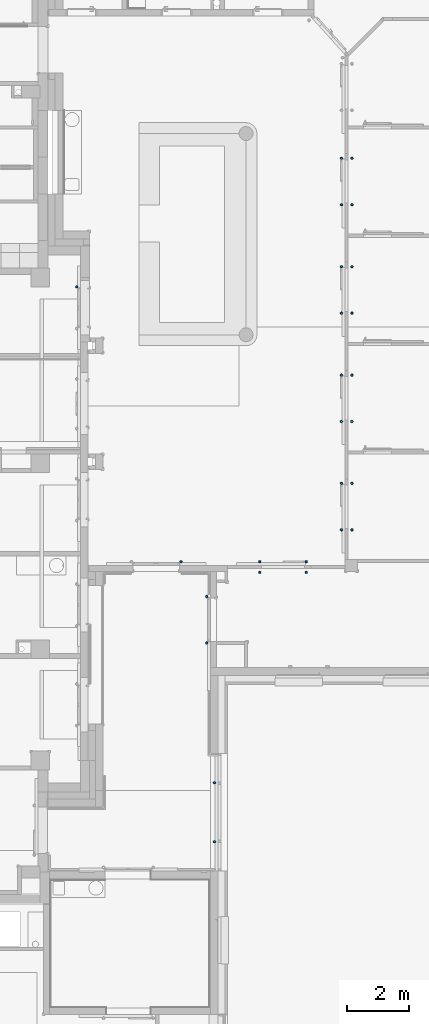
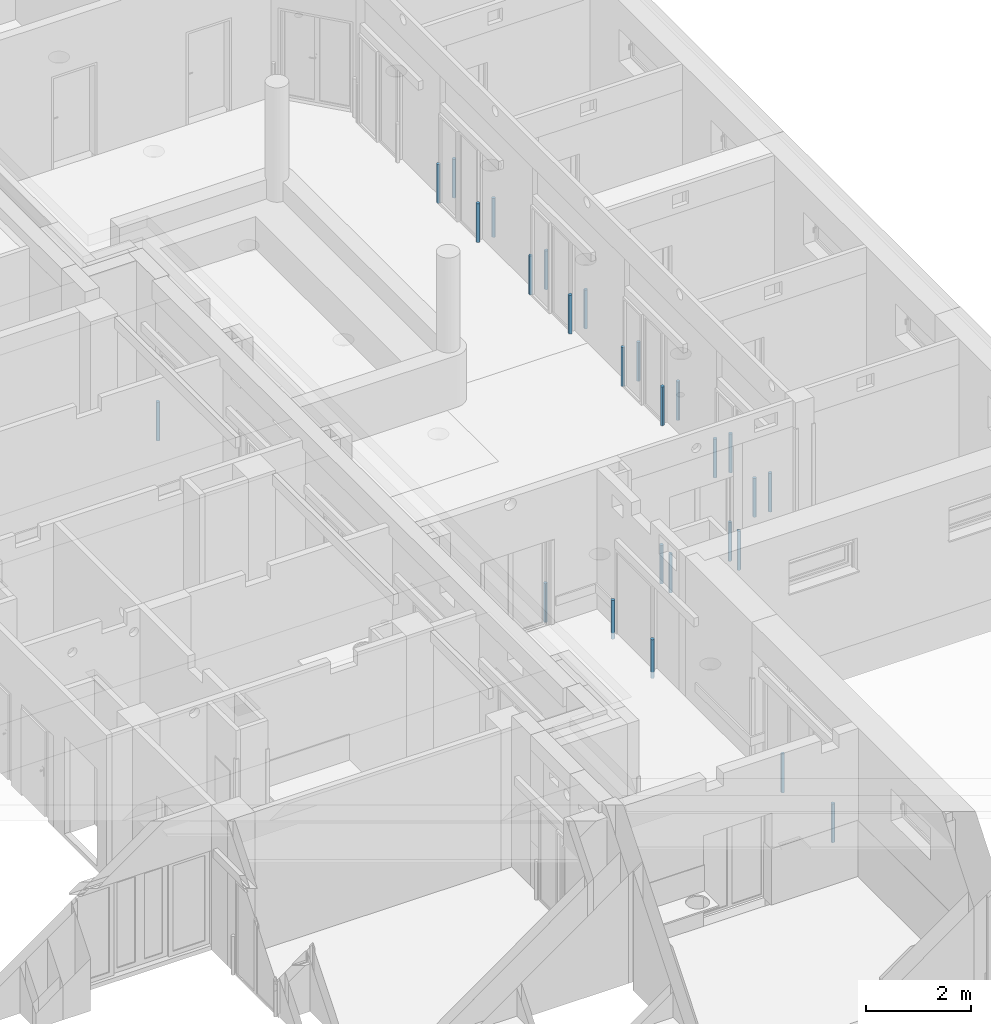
# One storey, part 5 of 140: 26 columns.
"""IFC4 building model written with IfcOpenShell, lengths in metres."""

from ifc_helpers import new_model, entity, si_unit, converted_unit, derived_unit, frame, frame_2d, origin, origin_with_axes, place, context, subcontext, project, spatial, circle, extrude, material, element, save


model = new_model("IFC4")

# Units and contexts
model_context = context("Model", 3, precision=1e-05, world=origin())
body_context = subcontext(model_context, "Body", "Model", "MODEL_VIEW")
ifc_project = project(units=[si_unit("LENGTHUNIT", "METRE"), si_unit("AREAUNIT", "SQUARE_METRE"), si_unit("VOLUMEUNIT", "CUBIC_METRE"), si_unit("MASSUNIT", "GRAM", prefix="KILO"), converted_unit("PLANEANGLEUNIT", "DEGREE", entity("IfcPlaneAngleMeasure", 0.0174532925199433), si_unit("PLANEANGLEUNIT", "RADIAN"), dimensions=[0, 0, 0, 0, 0, 0, 0]), derived_unit("THERMALTRANSMITTANCEUNIT", [(si_unit("POWERUNIT", "WATT"), 1), (si_unit("THERMODYNAMICTEMPERATUREUNIT", "KELVIN"), -1), (si_unit("LENGTHUNIT", "METRE"), -2)]), derived_unit("VOLUMETRICFLOWRATEUNIT", [(si_unit("LENGTHUNIT", "METRE"), 3), (converted_unit("TIMEUNIT", "hour", entity("IfcTimeMeasure", 3600.0), si_unit("TIMEUNIT", "SECOND"), dimensions=[0, 0, 1, 0, 0, 0, 0]), -1), (si_unit("LENGTHUNIT", "METRE"), -1)])], contexts=[model_context])

# Site, building, storey
site_placement = place(None, origin())
site = spatial("IfcSite", under=ifc_project, at=site_placement, Name="3. ASŘ", CompositionType="ELEMENT")
building_placement = place(site_placement, origin())
building = spatial("IfcBuilding", under=site, at=building_placement, Name="Pavilon C", CompositionType="ELEMENT")
storey_placement = place(building_placement, origin())
storey = spatial("IfcBuildingStorey", under=building, at=storey_placement, Name="Půdorys 1.NP", CompositionType="ELEMENT", Elevation=0.0)

# Columns
ifc_material_1 = material(Name="I.OS4")
column_1_placement = place(storey_placement, frame((51.092, 18.862, 0.0)))
element("IfcColumn", 1, at=column_1_placement, inside=storey, material=ifc_material_1, Name="OCHRANNÝ SLOUPEK", PredefinedType="COLUMN", context=body_context, shape_type="SweptSolid", body=[
    extrude(circle(Radius=0.0380000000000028, at=frame_2d((0.0380000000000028, 0.0380000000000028), x_axis=(1.0, 0.0))), origin_with_axes(), (0.0, 0.0, 1.0), 0.9),
])
ifc_material_2 = material(Name="I.OS4")
column_2_placement = place(storey_placement, frame((55.292, 7.36199999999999, 0.0)))
element("IfcColumn", 2, at=column_2_placement, inside=storey, material=ifc_material_2, Name="OCHRANNÝ SLOUPEK", PredefinedType="COLUMN", context=body_context, shape_type="SweptSolid", body=[
    extrude(circle(Radius=0.0380000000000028, at=frame_2d((0.0380000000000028, 0.0380000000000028), x_axis=(1.0, 0.0))), origin_with_axes(), (0.0, 0.0, 1.0), 0.9),
])
ifc_material_3 = material(Name="I.OS4")
column_3_placement = place(storey_placement, frame((54.462, 9.98199999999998, 0.0)))
element("IfcColumn", 3, at=column_3_placement, inside=storey, material=ifc_material_3, Name="OCHRANNÝ SLOUPEK", PredefinedType="COLUMN", context=body_context, shape_type="SweptSolid", body=[
    extrude(circle(Radius=0.0380000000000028, at=frame_2d((0.0380000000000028, 0.0380000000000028), x_axis=(1.0, 0.0))), origin_with_axes(), (0.0, 0.0, 1.0), 0.9),
])
ifc_material_4 = material(Name="I.OS4")
column_4_placement = place(storey_placement, frame((58.504, 9.98199999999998, 0.0)))
element("IfcColumn", 4, at=column_4_placement, inside=storey, material=ifc_material_4, Name="OCHRANNÝ SLOUPEK", PredefinedType="COLUMN", context=body_context, shape_type="SweptSolid", body=[
    extrude(circle(Radius=0.0380000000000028, at=frame_2d((0.0380000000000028, 0.0380000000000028), x_axis=(1.0, 0.0))), origin_with_axes(), (0.0, 0.0, 1.0), 0.9),
])
ifc_material_5 = material(Name="I.OS4")
column_5_placement = place(storey_placement, frame((57.004, 9.98199999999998, 0.0)))
element("IfcColumn", 5, at=column_5_placement, inside=storey, material=ifc_material_5, Name="OCHRANNÝ SLOUPEK", PredefinedType="COLUMN", context=body_context, shape_type="SweptSolid", body=[
    extrude(circle(Radius=0.0380000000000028, at=frame_2d((0.0380000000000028, 0.0380000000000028), x_axis=(1.0, 0.0))), origin_with_axes(), (0.0, 0.0, 1.0), 0.9),
])
ifc_material_6 = material(Name="I.OS4")
column_6_placement = place(storey_placement, frame((57.004, 9.64199999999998, 0.0)))
element("IfcColumn", 6, at=column_6_placement, inside=storey, material=ifc_material_6, Name="OCHRANNÝ SLOUPEK", PredefinedType="COLUMN", context=body_context, shape_type="SweptSolid", body=[
    extrude(circle(Radius=0.0380000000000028, at=frame_2d((0.0380000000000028, 0.0380000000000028), x_axis=(1.0, 0.0))), origin_with_axes(), (0.0, 0.0, 1.0), 0.9),
])
ifc_material_7 = material(Name="I.OS4")
column_7_placement = place(storey_placement, frame((58.504, 9.64199999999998, 0.0)))
element("IfcColumn", 7, at=column_7_placement, inside=storey, material=ifc_material_7, Name="OCHRANNÝ SLOUPEK", PredefinedType="COLUMN", context=body_context, shape_type="SweptSolid", body=[
    extrude(circle(Radius=0.0380000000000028, at=frame_2d((0.0380000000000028, 0.0380000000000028), x_axis=(1.0, 0.0))), origin_with_axes(), (0.0, 0.0, 1.0), 0.9),
])
ifc_material_8 = material(Name="I.OS4")
column_8_placement = place(storey_placement, frame((59.642, 16.012, 0.0)))
element("IfcColumn", 8, at=column_8_placement, inside=storey, material=ifc_material_8, Name="OCHRANNÝ SLOUPEK", PredefinedType="COLUMN", context=body_context, shape_type="SweptSolid", body=[
    extrude(circle(Radius=0.0380000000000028, at=frame_2d((0.0380000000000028, 0.0380000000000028), x_axis=(1.0, 0.0))), origin_with_axes(), (0.0, 0.0, 1.0), 0.9),
])
ifc_material_9 = material(Name="I.OS4")
column_9_placement = place(storey_placement, frame((59.642, 14.512, 0.0)))
element("IfcColumn", 9, at=column_9_placement, inside=storey, material=ifc_material_9, Name="OCHRANNÝ SLOUPEK", PredefinedType="COLUMN", context=body_context, shape_type="SweptSolid", body=[
    extrude(circle(Radius=0.0380000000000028, at=frame_2d((0.0380000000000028, 0.0380000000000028), x_axis=(1.0, 0.0))), origin_with_axes(), (0.0, 0.0, 1.0), 0.9),
])
ifc_material_10 = material(Name="I.OS4")
column_10_placement = place(storey_placement, frame((59.982, 14.512, 0.0)))
element("IfcColumn", 10, at=column_10_placement, inside=storey, material=ifc_material_10, Name="OCHRANNÝ SLOUPEK", PredefinedType="COLUMN", context=body_context, shape_type="SweptSolid", body=[
    extrude(circle(Radius=0.0380000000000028, at=frame_2d((0.0380000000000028, 0.0380000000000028), x_axis=(1.0, 0.0))), origin_with_axes(), (0.0, 0.0, 1.0), 0.9),
])
ifc_material_11 = material(Name="I.OS4")
column_11_placement = place(storey_placement, frame((59.982, 16.012, 0.0)))
element("IfcColumn", 11, at=column_11_placement, inside=storey, material=ifc_material_11, Name="OCHRANNÝ SLOUPEK", PredefinedType="COLUMN", context=body_context, shape_type="SweptSolid", body=[
    extrude(circle(Radius=0.0380000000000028, at=frame_2d((0.0380000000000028, 0.0380000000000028), x_axis=(1.0, 0.0))), origin_with_axes(), (0.0, 0.0, 1.0), 0.9),
])
ifc_material_12 = material(Name="I.OS4")
column_12_placement = place(storey_placement, frame((59.642, 19.512, 0.0)))
element("IfcColumn", 12, at=column_12_placement, inside=storey, material=ifc_material_12, Name="OCHRANNÝ SLOUPEK", PredefinedType="COLUMN", context=body_context, shape_type="SweptSolid", body=[
    extrude(circle(Radius=0.0380000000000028, at=frame_2d((0.0380000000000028, 0.0380000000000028), x_axis=(1.0, 0.0))), origin_with_axes(), (0.0, 0.0, 1.0), 0.9),
])
ifc_material_13 = material(Name="I.OS4")
column_13_placement = place(storey_placement, frame((59.642, 18.012, 0.0)))
element("IfcColumn", 13, at=column_13_placement, inside=storey, material=ifc_material_13, Name="OCHRANNÝ SLOUPEK", PredefinedType="COLUMN", context=body_context, shape_type="SweptSolid", body=[
    extrude(circle(Radius=0.0380000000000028, at=frame_2d((0.0380000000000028, 0.0380000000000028), x_axis=(1.0, 0.0))), origin_with_axes(), (0.0, 0.0, 1.0), 0.9),
])
ifc_material_14 = material(Name="I.OS4")
column_14_placement = place(storey_placement, frame((59.982, 18.012, 0.0)))
element("IfcColumn", 14, at=column_14_placement, inside=storey, material=ifc_material_14, Name="OCHRANNÝ SLOUPEK", PredefinedType="COLUMN", context=body_context, shape_type="SweptSolid", body=[
    extrude(circle(Radius=0.0380000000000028, at=frame_2d((0.0380000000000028, 0.0380000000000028), x_axis=(1.0, 0.0))), origin_with_axes(), (0.0, 0.0, 1.0), 0.9),
])
ifc_material_15 = material(Name="I.OS4")
column_15_placement = place(storey_placement, frame((59.982, 19.512, 0.0)))
element("IfcColumn", 15, at=column_15_placement, inside=storey, material=ifc_material_15, Name="OCHRANNÝ SLOUPEK", PredefinedType="COLUMN", context=body_context, shape_type="SweptSolid", body=[
    extrude(circle(Radius=0.0380000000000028, at=frame_2d((0.0380000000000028, 0.0380000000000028), x_axis=(1.0, 0.0))), origin_with_axes(), (0.0, 0.0, 1.0), 0.9),
])
ifc_material_16 = material(Name="I.OS4")
column_16_placement = place(storey_placement, frame((59.642, 23.012, 0.0)))
element("IfcColumn", 16, at=column_16_placement, inside=storey, material=ifc_material_16, Name="OCHRANNÝ SLOUPEK", PredefinedType="COLUMN", context=body_context, shape_type="SweptSolid", body=[
    extrude(circle(Radius=0.0380000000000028, at=frame_2d((0.0380000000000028, 0.0380000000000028), x_axis=(1.0, 0.0))), origin_with_axes(), (0.0, 0.0, 1.0), 0.9),
])
ifc_material_17 = material(Name="I.OS4")
column_17_placement = place(storey_placement, frame((59.642, 21.512, 0.0)))
element("IfcColumn", 17, at=column_17_placement, inside=storey, material=ifc_material_17, Name="OCHRANNÝ SLOUPEK", PredefinedType="COLUMN", context=body_context, shape_type="SweptSolid", body=[
    extrude(circle(Radius=0.0380000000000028, at=frame_2d((0.0380000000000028, 0.0380000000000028), x_axis=(1.0, 0.0))), origin_with_axes(), (0.0, 0.0, 1.0), 0.9),
])
ifc_material_18 = material(Name="I.OS4")
column_18_placement = place(storey_placement, frame((59.982, 21.512, 0.0)))
element("IfcColumn", 18, at=column_18_placement, inside=storey, material=ifc_material_18, Name="OCHRANNÝ SLOUPEK", PredefinedType="COLUMN", context=body_context, shape_type="SweptSolid", body=[
    extrude(circle(Radius=0.0380000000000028, at=frame_2d((0.0380000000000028, 0.0380000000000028), x_axis=(1.0, 0.0))), origin_with_axes(), (0.0, 0.0, 1.0), 0.9),
])
ifc_material_19 = material(Name="I.OS4")
column_19_placement = place(storey_placement, frame((59.982, 23.012, 0.0)))
element("IfcColumn", 19, at=column_19_placement, inside=storey, material=ifc_material_19, Name="OCHRANNÝ SLOUPEK", PredefinedType="COLUMN", context=body_context, shape_type="SweptSolid", body=[
    extrude(circle(Radius=0.0380000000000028, at=frame_2d((0.0380000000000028, 0.0380000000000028), x_axis=(1.0, 0.0))), origin_with_axes(), (0.0, 0.0, 1.0), 0.9),
])
ifc_material_20 = material(Name="I.OS4")
column_20_placement = place(storey_placement, frame((59.642, 12.512, 0.0)))
element("IfcColumn", 20, at=column_20_placement, inside=storey, material=ifc_material_20, Name="OCHRANNÝ SLOUPEK", PredefinedType="COLUMN", context=body_context, shape_type="SweptSolid", body=[
    extrude(circle(Radius=0.0380000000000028, at=frame_2d((0.0380000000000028, 0.0380000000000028), x_axis=(1.0, 0.0))), origin_with_axes(), (0.0, 0.0, 1.0), 0.9),
])
ifc_material_21 = material(Name="I.OS4")
column_21_placement = place(storey_placement, frame((59.642, 11.012, 0.0)))
element("IfcColumn", 21, at=column_21_placement, inside=storey, material=ifc_material_21, Name="OCHRANNÝ SLOUPEK", PredefinedType="COLUMN", context=body_context, shape_type="SweptSolid", body=[
    extrude(circle(Radius=0.0380000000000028, at=frame_2d((0.0380000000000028, 0.0380000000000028), x_axis=(1.0, 0.0))), origin_with_axes(), (0.0, 0.0, 1.0), 0.9),
])
ifc_material_22 = material(Name="I.OS4")
column_22_placement = place(storey_placement, frame((59.982, 11.012, 0.0)))
element("IfcColumn", 22, at=column_22_placement, inside=storey, material=ifc_material_22, Name="OCHRANNÝ SLOUPEK", PredefinedType="COLUMN", context=body_context, shape_type="SweptSolid", body=[
    extrude(circle(Radius=0.0380000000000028, at=frame_2d((0.0380000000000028, 0.0380000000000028), x_axis=(1.0, 0.0))), origin_with_axes(), (0.0, 0.0, 1.0), 0.9),
])
ifc_material_23 = material(Name="I.OS4")
column_23_placement = place(storey_placement, frame((59.982, 12.512, 0.0)))
element("IfcColumn", 23, at=column_23_placement, inside=storey, material=ifc_material_23, Name="OCHRANNÝ SLOUPEK", PredefinedType="COLUMN", context=body_context, shape_type="SweptSolid", body=[
    extrude(circle(Radius=0.0380000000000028, at=frame_2d((0.0380000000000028, 0.0380000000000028), x_axis=(1.0, 0.0))), origin_with_axes(), (0.0, 0.0, 1.0), 0.9),
])
ifc_material_24 = material(Name="I.OS4")
column_24_placement = place(storey_placement, frame((55.292, 8.86199999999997, 0.0)))
element("IfcColumn", 24, at=column_24_placement, inside=storey, material=ifc_material_24, Name="OCHRANNÝ SLOUPEK", PredefinedType="COLUMN", context=body_context, shape_type="SweptSolid", body=[
    extrude(circle(Radius=0.0380000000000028, at=frame_2d((0.0380000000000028, 0.0380000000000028), x_axis=(1.0, 0.0))), origin_with_axes(), (0.0, 0.0, 1.0), 0.9),
])
ifc_material_25 = material(Name="I.OS4")
column_25_placement = place(storey_placement, frame((55.542, 0.940999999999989, 0.0)))
element("IfcColumn", 25, at=column_25_placement, inside=storey, material=ifc_material_25, Name="OCHRANNÝ SLOUPEK", PredefinedType="COLUMN", context=body_context, shape_type="SweptSolid", body=[
    extrude(circle(Radius=0.0380000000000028, at=frame_2d((0.0380000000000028, 0.0380000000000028), x_axis=(1.0, 0.0))), origin_with_axes(), (0.0, 0.0, 1.0), 0.9),
])
ifc_material_26 = material(Name="I.OS4")
column_26_placement = place(storey_placement, frame((55.542, 2.84299999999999, 0.0)))
element("IfcColumn", 26, at=column_26_placement, inside=storey, material=ifc_material_26, Name="OCHRANNÝ SLOUPEK", PredefinedType="COLUMN", context=body_context, shape_type="SweptSolid", body=[
    extrude(circle(Radius=0.0380000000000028, at=frame_2d((0.0380000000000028, 0.0380000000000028), x_axis=(1.0, 0.0))), origin_with_axes(), (0.0, 0.0, 1.0), 0.9),
])

save(model, "model.ifc")
